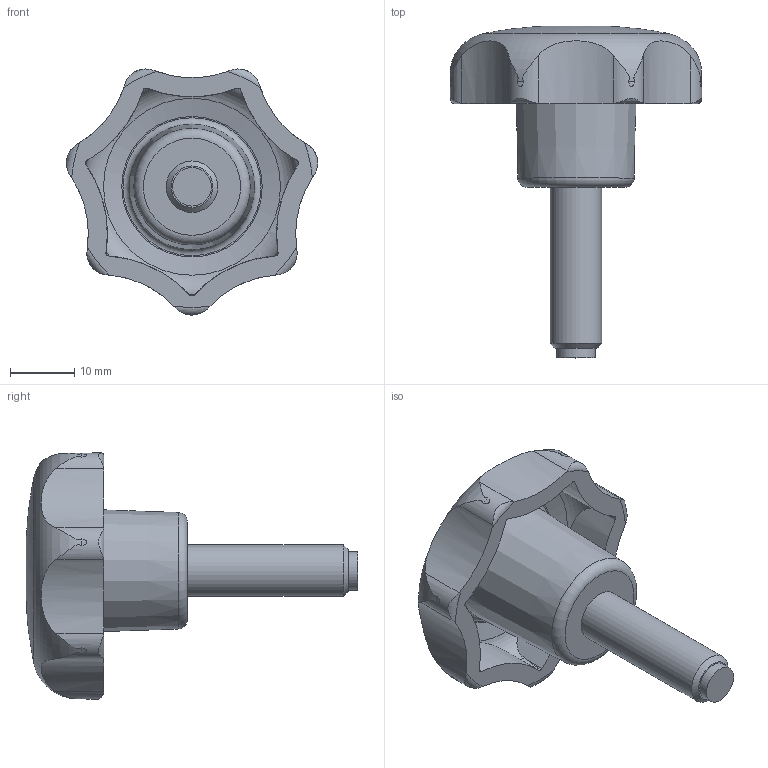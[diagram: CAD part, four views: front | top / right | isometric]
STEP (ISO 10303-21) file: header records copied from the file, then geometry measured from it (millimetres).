
FILE_DESCRIPTION( ( 'STEP AP203' ), '1' );
FILE_NAME( 'C:/Temp/Ganter_Step_05_03_2020/data/2_2/gn6336_10/Star knob GN 6336.10-40-M8-25-MS.stp', '2020-03-05T12:04:11', ( 'License CC BY-ND 4.0' ), ( 'CADENAS' ), ' ', 'PARTsolutions', ' ' );
FILE_SCHEMA( ( 'CONFIG_CONTROL_DESIGN' ) );
Length unit declared in the file: millimetre
Products named in the file (1): _Star knob GN 6336.10-40-M8-25-MS
Bounding box: 39.03 x 51.57 x 38.23 mm (x, y, z)
Volume: 12801.8 mm3; surface area: 5771.5 mm2
Topology: 1 solids, 1 shells, 64 faces, 188 edges, 128 vertices
Faces by surface type: cylinder 30, cone 17, torus 12, plane 4, bspline 1
Full cylindrical faces by diameter (mm): 6 x1, 8 x1
Entity records: 3177 total; most frequent: CARTESIAN_POINT 1616, ORIENTED_EDGE 346, DIRECTION 264, EDGE_CURVE 173, VERTEX_POINT 126, AXIS2_PLACEMENT_3D 118, B_SPLINE_CURVE_WITH_KNOTS 91, EDGE_LOOP 77
